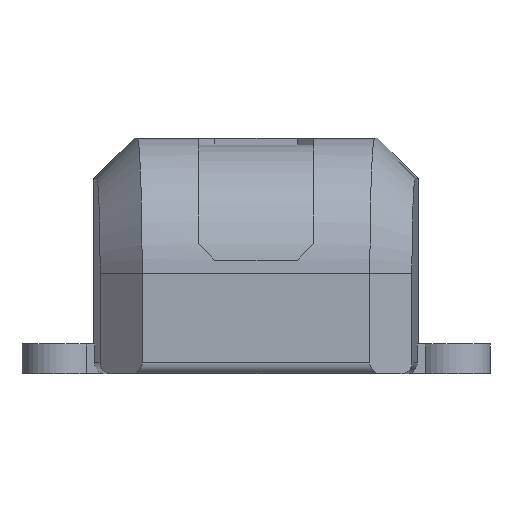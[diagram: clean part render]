
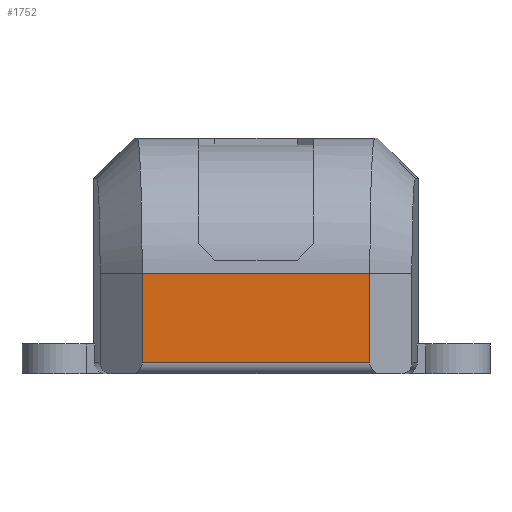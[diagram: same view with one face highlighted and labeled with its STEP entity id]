
A CAD part, front view. The second image highlights one B-rep face of the part: STEP entity #1752.
In plain terms, the highlighted planar face has unit normal (0, -1, 0).
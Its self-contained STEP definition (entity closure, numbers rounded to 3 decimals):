
#1059 = PLANE('',#1060);
#1060 = AXIS2_PLACEMENT_3D('',#1061,#1062,#1063);
#1061 = CARTESIAN_POINT('',(-11.522,-25.502,10.2));
#1062 = DIRECTION('',(0.695,0.719,-0.));
#1063 = DIRECTION('',(0.719,-0.695,0.));
#1494 = PLANE('',#1495);
#1495 = AXIS2_PLACEMENT_3D('',#1496,#1497,#1498);
#1496 = CARTESIAN_POINT('',(11.522,-25.502,10.2));
#1497 = DIRECTION('',(0.695,-0.719,0.));
#1498 = DIRECTION('',(-0.719,-0.695,0.));
#1624 = VERTEX_POINT('',#1625);
#1625 = CARTESIAN_POINT('',(8.417,-28.5,18.6));
#1644 = EDGE_CURVE('',#1624,#1645,#1647,.T.);
#1645 = VERTEX_POINT('',#1646);
#1646 = CARTESIAN_POINT('',(8.417,-28.5,12.));
#1647 = SURFACE_CURVE('',#1648,(#1651,#1657),.PCURVE_S1.);
#1648 = B_SPLINE_CURVE_WITH_KNOTS('',1,(#1649,#1650),.UNSPECIFIED.,.F.,
  .F.,(2,2),(0.,1.),.PIECEWISE_BEZIER_KNOTS.);
#1649 = CARTESIAN_POINT('',(8.417,-28.5,18.6));
#1650 = CARTESIAN_POINT('',(8.417,-28.5,10.2));
#1651 = PCURVE('',#1494,#1652);
#1652 = DEFINITIONAL_REPRESENTATION('',(#1653),#1656);
#1653 = B_SPLINE_CURVE_WITH_KNOTS('',1,(#1654,#1655),.UNSPECIFIED.,.F.,
  .F.,(2,2),(0.,1.),.PIECEWISE_BEZIER_KNOTS.);
#1654 = CARTESIAN_POINT('',(4.316,-8.4));
#1655 = CARTESIAN_POINT('',(4.316,0.));
#1656 = ( GEOMETRIC_REPRESENTATION_CONTEXT(2) 
PARAMETRIC_REPRESENTATION_CONTEXT() REPRESENTATION_CONTEXT('2D SPACE',''
  ) );
#1657 = PCURVE('',#1658,#1663);
#1658 = PLANE('',#1659);
#1659 = AXIS2_PLACEMENT_3D('',#1660,#1661,#1662);
#1660 = CARTESIAN_POINT('',(-11.417,-28.5,11.2));
#1661 = DIRECTION('',(0.,1.,0.));
#1662 = DIRECTION('',(1.,0.,0.));
#1663 = DEFINITIONAL_REPRESENTATION('',(#1664),#1667);
#1664 = B_SPLINE_CURVE_WITH_KNOTS('',1,(#1665,#1666),.UNSPECIFIED.,.F.,
  .F.,(2,2),(0.,1.),.PIECEWISE_BEZIER_KNOTS.);
#1665 = CARTESIAN_POINT('',(19.834,-7.4));
#1666 = CARTESIAN_POINT('',(19.834,1.));
#1667 = ( GEOMETRIC_REPRESENTATION_CONTEXT(2) 
PARAMETRIC_REPRESENTATION_CONTEXT() REPRESENTATION_CONTEXT('2D SPACE',''
  ) );
#1686 = CYLINDRICAL_SURFACE('',#1687,0.8);
#1687 = AXIS2_PLACEMENT_3D('',#1688,#1689,#1690);
#1688 = CARTESIAN_POINT('',(-11.417,-27.7,12.));
#1689 = DIRECTION('',(1.,0.,0.));
#1690 = DIRECTION('',(0.,-1.,0.));
#1752 = ADVANCED_FACE('',(#1753),#1658,.F.);
#1753 = FACE_BOUND('',#1754,.F.);
#1754 = EDGE_LOOP('',(#1755,#1778,#1798,#1824));
#1755 = ORIENTED_EDGE('',*,*,#1756,.F.);
#1756 = EDGE_CURVE('',#1757,#1645,#1759,.T.);
#1757 = VERTEX_POINT('',#1758);
#1758 = CARTESIAN_POINT('',(-8.417,-28.5,12.));
#1759 = SURFACE_CURVE('',#1760,(#1764,#1771),.PCURVE_S1.);
#1760 = LINE('',#1761,#1762);
#1761 = CARTESIAN_POINT('',(-11.417,-28.5,12.));
#1762 = VECTOR('',#1763,1.);
#1763 = DIRECTION('',(1.,0.,0.));
#1764 = PCURVE('',#1658,#1765);
#1765 = DEFINITIONAL_REPRESENTATION('',(#1766),#1770);
#1766 = LINE('',#1767,#1768);
#1767 = CARTESIAN_POINT('',(0.,-0.8));
#1768 = VECTOR('',#1769,1.);
#1769 = DIRECTION('',(1.,0.));
#1770 = ( GEOMETRIC_REPRESENTATION_CONTEXT(2) 
PARAMETRIC_REPRESENTATION_CONTEXT() REPRESENTATION_CONTEXT('2D SPACE',''
  ) );
#1771 = PCURVE('',#1686,#1772);
#1772 = DEFINITIONAL_REPRESENTATION('',(#1773),#1777);
#1773 = LINE('',#1774,#1775);
#1774 = CARTESIAN_POINT('',(0.,0.));
#1775 = VECTOR('',#1776,1.);
#1776 = DIRECTION('',(0.,1.));
#1777 = ( GEOMETRIC_REPRESENTATION_CONTEXT(2) 
PARAMETRIC_REPRESENTATION_CONTEXT() REPRESENTATION_CONTEXT('2D SPACE',''
  ) );
#1778 = ORIENTED_EDGE('',*,*,#1779,.F.);
#1779 = EDGE_CURVE('',#1780,#1757,#1782,.T.);
#1780 = VERTEX_POINT('',#1781);
#1781 = CARTESIAN_POINT('',(-8.417,-28.5,18.6));
#1782 = SURFACE_CURVE('',#1783,(#1786,#1792),.PCURVE_S1.);
#1783 = B_SPLINE_CURVE_WITH_KNOTS('',1,(#1784,#1785),.UNSPECIFIED.,.F.,
  .F.,(2,2),(0.,1.),.PIECEWISE_BEZIER_KNOTS.);
#1784 = CARTESIAN_POINT('',(-8.417,-28.5,18.6));
#1785 = CARTESIAN_POINT('',(-8.417,-28.5,10.2));
#1786 = PCURVE('',#1658,#1787);
#1787 = DEFINITIONAL_REPRESENTATION('',(#1788),#1791);
#1788 = B_SPLINE_CURVE_WITH_KNOTS('',1,(#1789,#1790),.UNSPECIFIED.,.F.,
  .F.,(2,2),(0.,1.),.PIECEWISE_BEZIER_KNOTS.);
#1789 = CARTESIAN_POINT('',(3.,-7.4));
#1790 = CARTESIAN_POINT('',(3.,1.));
#1791 = ( GEOMETRIC_REPRESENTATION_CONTEXT(2) 
PARAMETRIC_REPRESENTATION_CONTEXT() REPRESENTATION_CONTEXT('2D SPACE',''
  ) );
#1792 = PCURVE('',#1059,#1793);
#1793 = DEFINITIONAL_REPRESENTATION('',(#1794),#1797);
#1794 = B_SPLINE_CURVE_WITH_KNOTS('',1,(#1795,#1796),.UNSPECIFIED.,.F.,
  .F.,(2,2),(0.,1.),.PIECEWISE_BEZIER_KNOTS.);
#1795 = CARTESIAN_POINT('',(4.316,-8.4));
#1796 = CARTESIAN_POINT('',(4.316,0.));
#1797 = ( GEOMETRIC_REPRESENTATION_CONTEXT(2) 
PARAMETRIC_REPRESENTATION_CONTEXT() REPRESENTATION_CONTEXT('2D SPACE',''
  ) );
#1798 = ORIENTED_EDGE('',*,*,#1799,.F.);
#1799 = EDGE_CURVE('',#1624,#1780,#1800,.T.);
#1800 = SURFACE_CURVE('',#1801,(#1805,#1812),.PCURVE_S1.);
#1801 = LINE('',#1802,#1803);
#1802 = CARTESIAN_POINT('',(200.,-28.5,18.6));
#1803 = VECTOR('',#1804,1.);
#1804 = DIRECTION('',(-1.,0.,0.));
#1805 = PCURVE('',#1658,#1806);
#1806 = DEFINITIONAL_REPRESENTATION('',(#1807),#1811);
#1807 = LINE('',#1808,#1809);
#1808 = CARTESIAN_POINT('',(211.417,-7.4));
#1809 = VECTOR('',#1810,1.);
#1810 = DIRECTION('',(-1.,0.));
#1811 = ( GEOMETRIC_REPRESENTATION_CONTEXT(2) 
PARAMETRIC_REPRESENTATION_CONTEXT() REPRESENTATION_CONTEXT('2D SPACE',''
  ) );
#1812 = PCURVE('',#1813,#1818);
#1813 = CYLINDRICAL_SURFACE('',#1814,10.);
#1814 = AXIS2_PLACEMENT_3D('',#1815,#1816,#1817);
#1815 = CARTESIAN_POINT('',(200.,-18.5,18.6));
#1816 = DIRECTION('',(1.,0.,-0.));
#1817 = DIRECTION('',(0.,-1.,0.));
#1818 = DEFINITIONAL_REPRESENTATION('',(#1819),#1823);
#1819 = LINE('',#1820,#1821);
#1820 = CARTESIAN_POINT('',(-0.,0.));
#1821 = VECTOR('',#1822,1.);
#1822 = DIRECTION('',(-0.,-1.));
#1823 = ( GEOMETRIC_REPRESENTATION_CONTEXT(2) 
PARAMETRIC_REPRESENTATION_CONTEXT() REPRESENTATION_CONTEXT('2D SPACE',''
  ) );
#1824 = ORIENTED_EDGE('',*,*,#1644,.T.);
